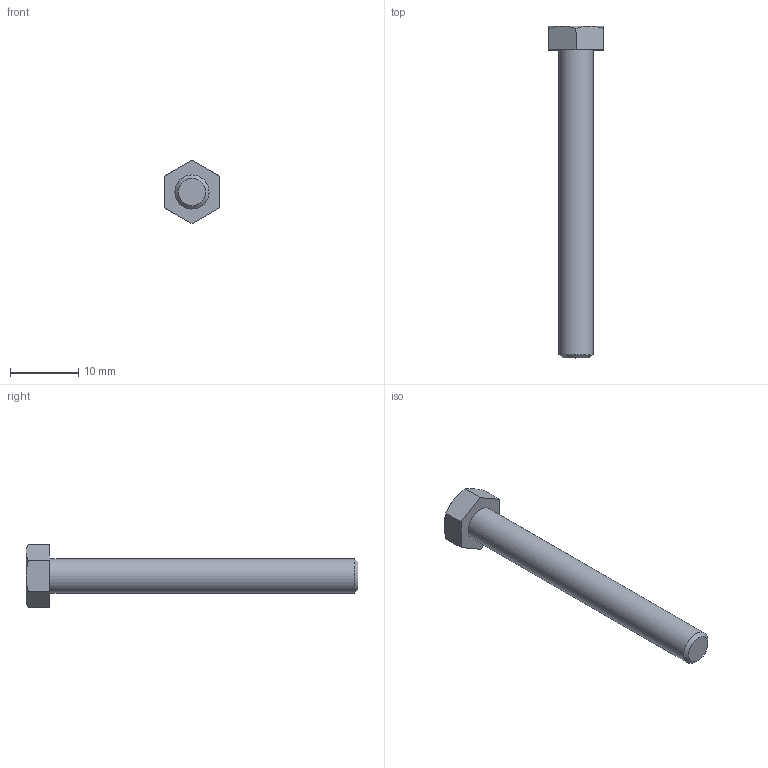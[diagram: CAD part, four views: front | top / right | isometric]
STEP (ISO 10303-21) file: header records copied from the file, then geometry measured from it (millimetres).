
FILE_DESCRIPTION(/* description */ (''),/* implementation_level */ '2;1');
FILE_NAME(/* name */ 'C:\Users\unitec\Documents\Inventor\各種小物\JIS\JIS B 1180 六角ボルト 等級C\hbc5\M5x45.stp',/* time_stamp */ '2015-02-13T14:48:59+09:00',/* author */ ('unitec'),/* organization */ (''),/* preprocessor_version */ 'ST-DEVELOPER v15.2',/* originating_system */ 'Autodesk Inventor 2014',/* authorisation */ '');
FILE_SCHEMA (('AUTOMOTIVE_DESIGN { 1 0 10303 214 3 1 1 }'));
Length unit declared in the file: millimetre
Products named in the file (1): M5x45
Bounding box: 8 x 48.5 x 9.24 mm (x, y, z)
Volume: 1075.2 mm3; surface area: 907.3 mm2
Topology: 1 solids, 1 shells, 17 faces, 35 edges, 21 vertices
Faces by surface type: plane 9, cone 7, cylinder 1
Full cylindrical faces by diameter (mm): 5 x1
Entity records: 441 total; most frequent: CARTESIAN_POINT 96, ORIENTED_EDGE 66, DIRECTION 66, EDGE_CURVE 33, AXIS2_PLACEMENT_3D 27, VERTEX_POINT 21, EDGE_LOOP 20, ADVANCED_FACE 17
